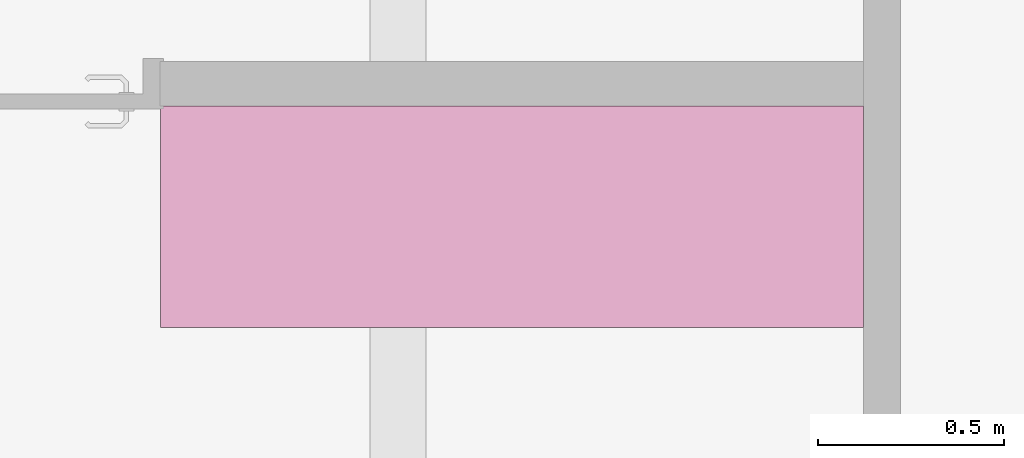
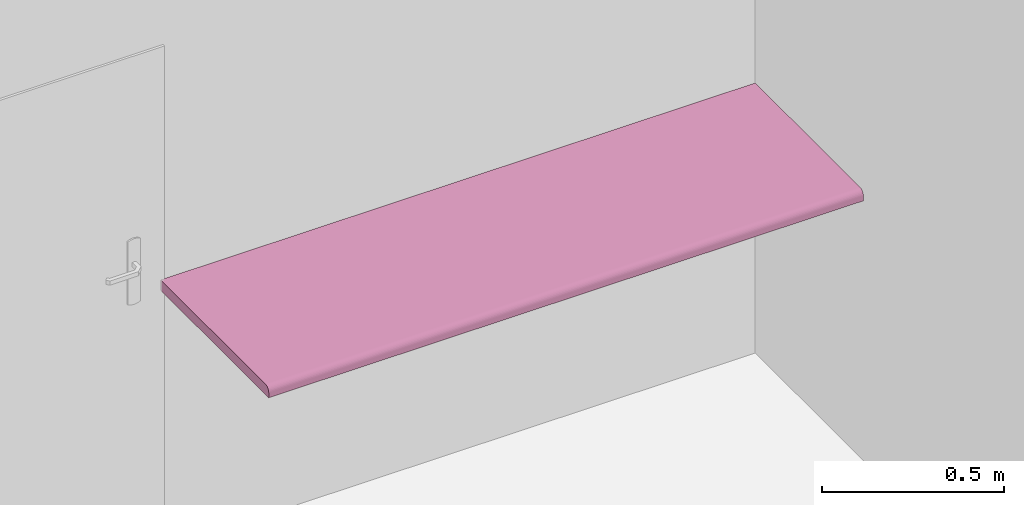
# One storey, part 116 of 137: 1 furnishing.
"""IFC2X3 building model written with IfcOpenShell, lengths in centimetres."""

from ifc_helpers import new_model, entity, si_unit, converted_unit, derived_unit, direction, frame, frame_2d, origin, place, context, subcontext, project, spatial, polyline, circle_curve, parameter, trimmed, segment, composite_curve, outline, extrude, source, transform, mapped, material, type_object, type_shapes, element, save


model = new_model("IFC2X3")

# Units and contexts
model_context = context("Model", 3, precision=0.001, world=origin(), true_north=direction((6.12303176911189e-17, 1.0)))
body_context = subcontext(model_context, "Body", "Model", "MODEL_VIEW")
ifc_project = project(units=[si_unit("LENGTHUNIT", "METRE", prefix="CENTI"), si_unit("AREAUNIT", "SQUARE_METRE"), si_unit("VOLUMEUNIT", "CUBIC_METRE"), converted_unit("PLANEANGLEUNIT", "DEGREE", entity("IfcRatioMeasure", 0.0174532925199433), si_unit("PLANEANGLEUNIT", "RADIAN"), dimensions=[0, 0, 0, 0, 0, 0, 0]), si_unit("MASSUNIT", "GRAM", prefix="KILO"), si_unit("TIMEUNIT", "SECOND"), si_unit("FREQUENCYUNIT", "HERTZ"), si_unit("THERMODYNAMICTEMPERATUREUNIT", "DEGREE_CELSIUS"), derived_unit("THERMALTRANSMITTANCEUNIT", [(si_unit("MASSUNIT", "GRAM", prefix="KILO"), 1), (si_unit("THERMODYNAMICTEMPERATUREUNIT", "KELVIN"), -1), (si_unit("TIMEUNIT", "SECOND"), -3)]), derived_unit("VOLUMETRICFLOWRATEUNIT", [(si_unit("LENGTHUNIT", "METRE"), 3), (si_unit("TIMEUNIT", "SECOND"), -1)]), si_unit("ELECTRICCURRENTUNIT", "AMPERE"), si_unit("ELECTRICVOLTAGEUNIT", "VOLT"), si_unit("POWERUNIT", "WATT"), si_unit("FORCEUNIT", "NEWTON", prefix="KILO"), si_unit("ILLUMINANCEUNIT", "LUX"), si_unit("LUMINOUSFLUXUNIT", "LUMEN"), si_unit("LUMINOUSINTENSITYUNIT", "CANDELA"), derived_unit("USERDEFINED", [(si_unit("MASSUNIT", "GRAM", prefix="KILO"), -1), (si_unit("LENGTHUNIT", "METRE"), -2), (si_unit("TIMEUNIT", "SECOND"), 3), (si_unit("LUMINOUSFLUXUNIT", "LUMEN"), 1)]), derived_unit("LINEARVELOCITYUNIT", [(si_unit("LENGTHUNIT", "METRE"), 1), (si_unit("TIMEUNIT", "SECOND"), -1)]), si_unit("PRESSUREUNIT", "PASCAL"), derived_unit("USERDEFINED", [(si_unit("LENGTHUNIT", "METRE"), -2), (si_unit("MASSUNIT", "GRAM", prefix="KILO"), 1), (si_unit("TIMEUNIT", "SECOND"), -2)])], contexts=[model_context])

# Site, building, storey, space
site_placement = place(None, frame((8.62739174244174, -249.285249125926, 0.0)))
site = spatial("IfcSite", under=ifc_project, at=site_placement, Name="Default", CompositionType="ELEMENT")
building_placement = place(site_placement, origin())
building = spatial("IfcBuilding", under=site, at=building_placement, CompositionType="ELEMENT")
storey_placement = place(building_placement, origin())
storey = spatial("IfcBuildingStorey", under=building, at=storey_placement, Name="RDC", CompositionType="ELEMENT", Elevation=-8.82465566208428e-11)
space_placement = place(storey_placement, origin())
space = spatial("IfcSpace", under=storey, at=space_placement, Name="100", CompositionType="ELEMENT", InteriorOrExteriorSpace="INTERNAL")

# Furnishing
ifc_material = material(Name="Bois - Mélaminé jaune pastel")
furniture_type = type_object("IfcFurnitureType", Name="Avec réservation pour évier", AssemblyPlace="NOTDEFINED", material=ifc_material)
shared_shape = source(origin(), body_context, "Body", "SweptSolid", [
    extrude(outline(composite_curve([segment(polyline([(-1.91284418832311, -17.56427099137), (-0.772934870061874, -17.56427099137)]), True, "CONTINUOUS"), segment(polyline([(-0.772934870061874, -17.56427099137), (-0.16284418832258, -17.56427099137)]), True, "CONTINUOUS"), segment(trimmed(circle_curve(frame_2d((-0.16284418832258, -15.81427099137), x_axis=(0.0, -1.0)), 1.75), [parameter(4.57999874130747e-13)], [parameter(90.0000000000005)], True, "PARAMETER"), True, "CONTINUOUS"), segment(polyline([(1.58715581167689, -15.81427099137), (1.58715581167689, -15.4264723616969)]), True, "CONTINUOUS"), segment(polyline([(1.58715581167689, -15.4264723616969), (1.58715581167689, 41.9667781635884)]), True, "CONTINUOUS"), segment(polyline([(1.58715581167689, 41.9667781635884), (-1.91284418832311, 41.9667781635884)]), True, "CONTINUOUS"), segment(polyline([(-1.91284418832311, 41.9667781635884), (-1.91284418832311, -17.56427099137)]), True, "CONTINUOUS")], self_intersect=False)), frame((-81.9606644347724, 47.9667781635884, 89.1128441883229), z_axis=(1.0, 0.0, 0.0), x_axis=(0.0, 0.0, 1.0)), (0.0, 0.0, 1.0), 188.921328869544),
])
type_shapes(furniture_type, [shared_shape])
furnishing_placement = place(space_placement, frame((1092.03933556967, 397.0, 0.0), z_axis=(0.0, 0.0, 1.0), x_axis=(-1.0, 0.0, 0.0)))
element("IfcFurnishingElement", 1, at=furnishing_placement, inside=space, type_object=furniture_type, material=ifc_material, Name="PTD:Avec réservation pour évier", ObjectType="Avec réservation pour évier", context=body_context, shape_type="MappedRepresentation", body=[
    mapped(shared_shape, transform((0.0, 0.0, 0.0), scale=1.0)),
])

save(model, "model.ifc")
